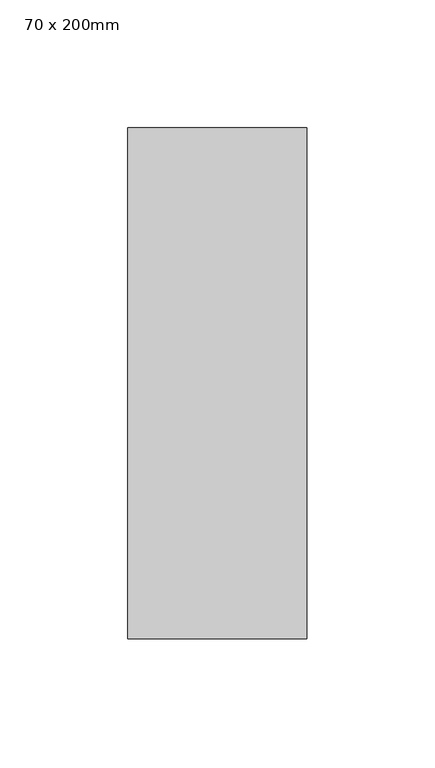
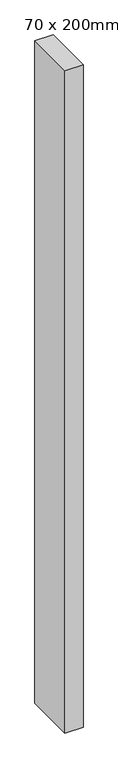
"""IFC4 building model written with IfcOpenShell, lengths in millimetres: member geometry, 矩形竖梃 : 70 x 200mm."""

from ifc_helpers import new_model, si_unit, frame, origin, place, context, project, spatial, polyline, outline, extrude, source, transform, mapped, element, save


def member_70_x_200mm_6f0fbdc8(model_context):
    return source(origin(), model_context, "Body", "SweptSolid", [
        extrude(outline(polyline([(35.0, 100.0), (35.0, -100.0), (-35.0, -100.0), (-35.0, 100.0), (35.0, 100.0)])), frame((0.0, 0.0, -2700.0), z_axis=(0.0, 0.0, 1.0), x_axis=(1.0, 0.0, 0.0)), (0.0, 0.0, 1.0), 2700.0),
    ])


if __name__ == "__main__":
    model = new_model("IFC4")
    model_context = context("Model", 3, world=origin())
    ifc_project = project(units=[si_unit("LENGTHUNIT", "METRE", prefix="MILLI")], contexts=[model_context])
    site = spatial("IfcSite", under=ifc_project)
    building = spatial("IfcBuilding", under=site)
    placement = place(None, origin())
    member_70_x_200mm_shape = member_70_x_200mm_6f0fbdc8(model_context)
    element("IfcMember", 1, ObjectType="矩形竖梃 : 70 x 200mm", at=placement, inside=building, context=model_context, shape_type="MappedRepresentation", body=[
        mapped(member_70_x_200mm_shape, transform((0.0, 0.0, 0.0), x_axis=(1.0, 0.0, 0.0), y_axis=(0.0, 1.0, 0.0), z_axis=(0.0, 0.0, 1.0))),
    ])
    save(model, "model.ifc")
